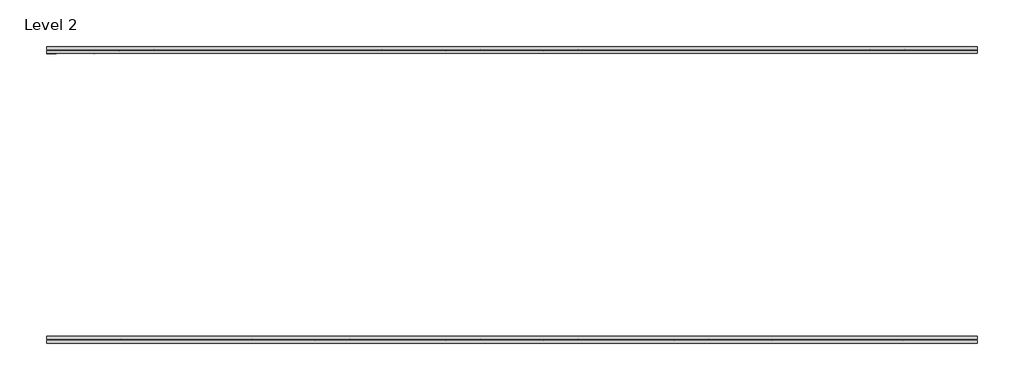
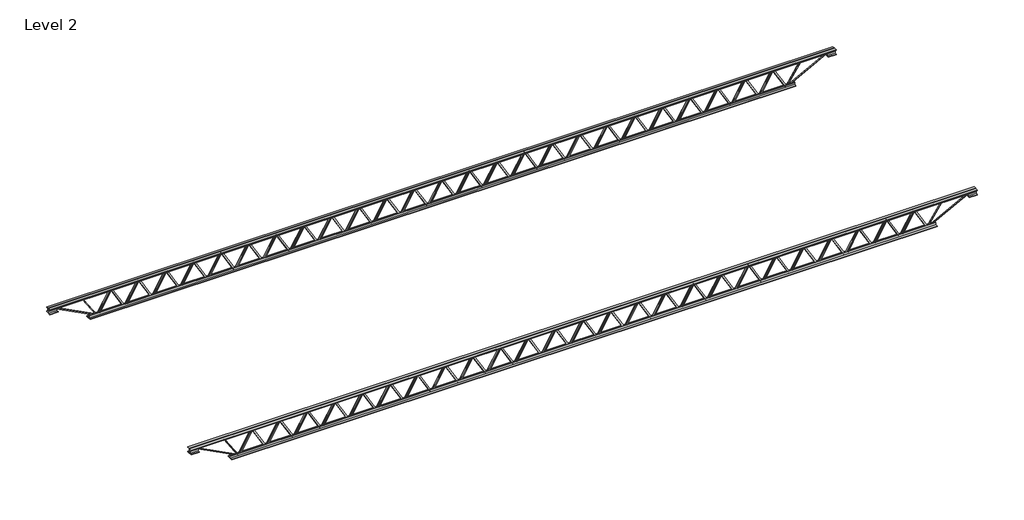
# One storey: 2 beams.
"""IFC4 building model written with IfcOpenShell, lengths in millimetres."""

from ifc_helpers import new_model, si_unit, origin, place, context, project, spatial, transform, mapped, element, save
from components import k_series_bar_joist_angle_web_12k1_d835311e, k_series_bar_joist_angle_web_12k1_3e4be9d7

model = new_model("IFC4")

# Units and contexts
model_context = context("Model", 3, world=origin())
ifc_project = project(units=[si_unit("LENGTHUNIT", "METRE", prefix="MILLI")], contexts=[model_context])

# Site, building, storey
site = spatial("IfcSite", under=ifc_project)
building = spatial("IfcBuilding", under=site)
storey = spatial("IfcBuildingStorey", under=building, Name="Level 2", Elevation=3048.0)

# Beams
placement = place(None, origin())
k_series_bar_joist_angle_web_12k1_shape = k_series_bar_joist_angle_web_12k1_d835311e(model_context)
element("IfcBeam", 1, ObjectType="K-Series Bar Joist-Angle Web : 12K1", at=placement, inside=storey, context=model_context, shape_type="MappedRepresentation", body=[
    mapped(k_series_bar_joist_angle_web_12k1_shape, transform((-8166.662017, 4504.8405087, 2895.6), x_axis=(1.0, 0.0, 0.0), y_axis=(0.0, 1.0, 0.0), z_axis=(0.0, 0.0, 1.0))),
])
k_series_bar_joist_angle_web_12k1_2_shape = k_series_bar_joist_angle_web_12k1_3e4be9d7(model_context)
element("IfcBeam", 2, ObjectType="K-Series Bar Joist-Angle Web : 12K1", at=placement, inside=storey, context=model_context, shape_type="MappedRepresentation", body=[
    mapped(k_series_bar_joist_angle_web_12k1_2_shape, transform((-8166.662017, 7587.4342723, 2895.6), x_axis=(0.999999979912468, 0.0002004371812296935, 0.0), y_axis=(-0.0002004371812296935, 0.999999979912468, 0.0), z_axis=(0.0, 0.0, 1.0))),
])

save(model, "model.ifc")
